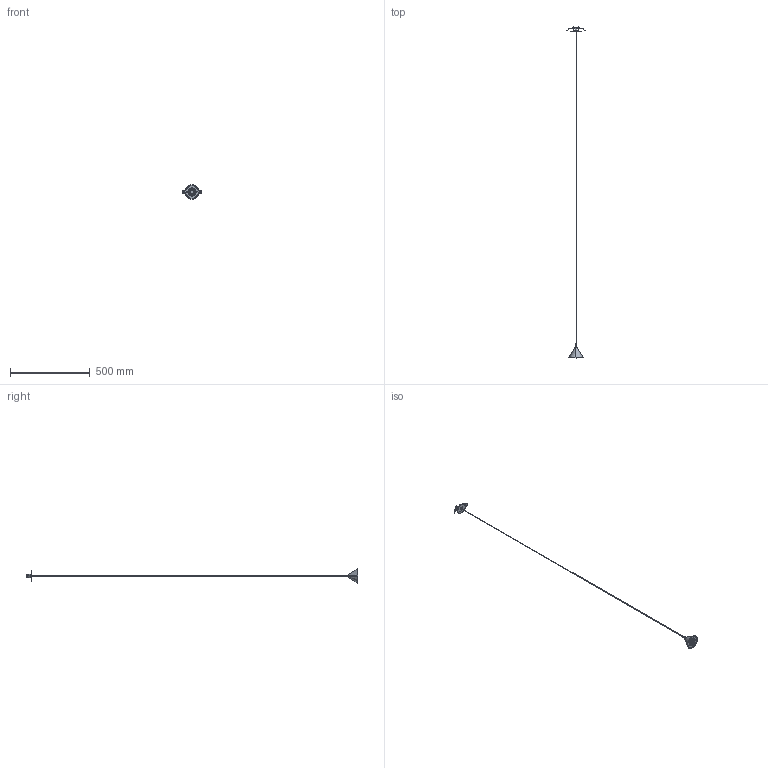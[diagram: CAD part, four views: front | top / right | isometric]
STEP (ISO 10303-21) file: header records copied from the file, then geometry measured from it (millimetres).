
FILE_DESCRIPTION (( 'STEP AP203' ), '1' );
FILE_NAME ('SPJMI1XXXXXXLED.STEP', '2025-11-14T17:33:14', ( '' ), ( '' ), 'SwSTEP 2.0', 'SolidWorks 2024', '' );
FILE_SCHEMA (( 'CONFIG_CONTROL_DESIGN' ));
Length unit declared in the file: millimetre
Products named in the file (16): WSCM2C0055-0100-00; WSA5069-7-0-11----; SPJMI1XXXXXXLED; PENDJEWEMO32XXXX; WSCM2A0032-0700-00; AX27-DL-1-04; WSA5284-2-5-------; E000400400; ASSIEME HOLDER+LENTE LEDLINK-01; WSR1TLL01CRCEW38L2; RESUOGUAN-D15x35; CAVO NL2CN; WSCM2A0067-0700-00; MOLLAKITINCASSO; WSCP2E0002-1404-01; WSCM2C0061-0100-00
Assembly tree (16 placements, depth 4):
  SPJMI1XXXXXXLED
    PENDJEWEMO32XXXX
      WSCM2A0067-0700-00
      WSCP2E0002-1404-01
      ASSIEME HOLDER+LENTE LEDLINK-01
        WSR1TLL01CRCEW38L2
      CAVO NL2CN
    E000400400
      WSCM2C0061-0100-00
      WSCM2C0055-0100-00
      WSCM2A0032-0700-00
      WSA5069-7-0-11----
      MOLLAKITINCASSO  x2
        AX27-DL-1-04
        RESUOGUAN-D15x35
      WSA5284-2-5-------
Bounding box: 115.89 x 2082.96 x 89.79 mm (x, y, z)
Volume: 140864.4 mm3; surface area: 76442.9 mm2
Topology: 13 solids, 13 shells, 993 faces, 2453 edges, 1472 vertices
Faces by surface type: cylinder 472, bspline 231, plane 156, cone 84, torus 40, sphere 10
Entity records: 52064 total; most frequent: CARTESIAN_POINT 31379, ORIENTED_EDGE 4466, DIRECTION 3207, EDGE_CURVE 2233, AXIS2_PLACEMENT_3D 1353, VERTEX_POINT 1352, B_SPLINE_CURVE_WITH_KNOTS 1087, EDGE_LOOP 975
